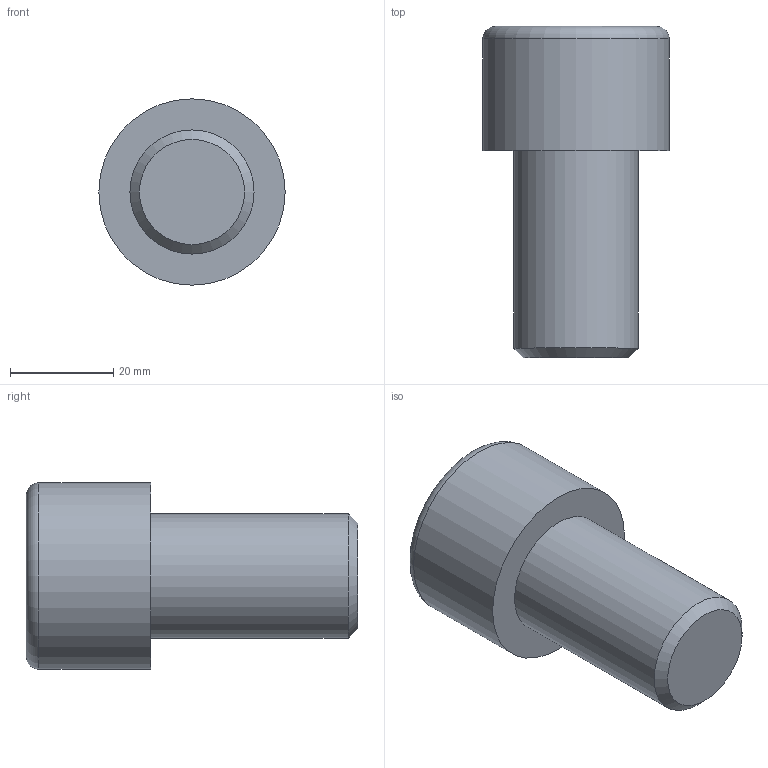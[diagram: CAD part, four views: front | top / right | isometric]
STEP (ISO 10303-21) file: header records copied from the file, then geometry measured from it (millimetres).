
FILE_DESCRIPTION(/* description */ (''),/* implementation_level */ '2;1');
FILE_NAME(/* name */ 'C:\Users\D\Documents\Inventor\各種小物\JIS\JIS B 1176 六角穴付きボルト\M24x40.stp',/* time_stamp */ '2022-05-09T19:00:02+09:00',/* author */ ('D'),/* organization */ (''),/* preprocessor_version */ 'ST-DEVELOPER v18',/* originating_system */ 'Autodesk Inventor 2020',/* authorisation */ '');
FILE_SCHEMA (('AUTOMOTIVE_DESIGN { 1 0 10303 214 3 1 1 }'));
Length unit declared in the file: millimetre
Products named in the file (1): M1.6x2.5
Bounding box: 36 x 64 x 36 mm (x, y, z)
Volume: 37740 mm3; surface area: 8436.2 mm2
Topology: 1 solids, 1 shells, 14 faces, 33 edges, 22 vertices
Faces by surface type: plane 9, cone 2, cylinder 2, torus 1
Full cylindrical faces by diameter (mm): 24 x1, 36 x1
Entity records: 435 total; most frequent: CARTESIAN_POINT 83, ORIENTED_EDGE 64, DIRECTION 64, EDGE_CURVE 32, AXIS2_PLACEMENT_3D 24, VERTEX_POINT 22, EDGE_LOOP 16, LINE 16
